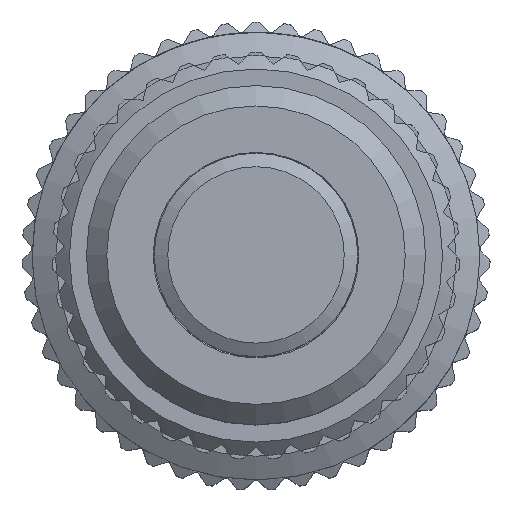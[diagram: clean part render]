
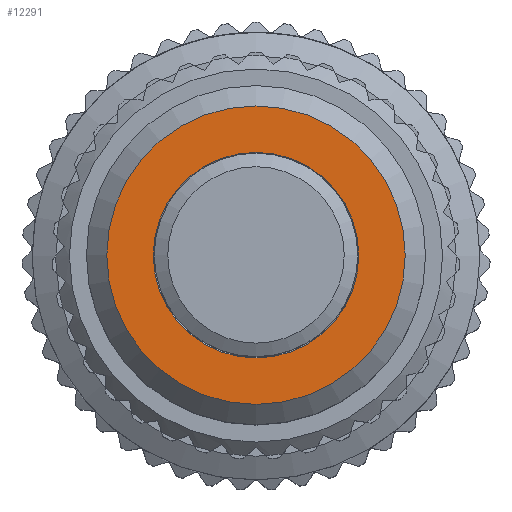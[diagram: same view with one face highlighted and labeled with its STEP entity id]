
A CAD part, top view. The second image highlights one B-rep face of the part: STEP entity #12291.
In plain terms, the highlighted planar face has unit normal (0, 0, 1).
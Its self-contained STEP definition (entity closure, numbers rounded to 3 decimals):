
#2775=PLANE($,#12990);
#3078=FACE_BOUND($,#3810,.T.);
#3121=FACE_OUTER_BOUND($,#3809,.T.);
#3809=EDGE_LOOP($,(#8290));
#3810=EDGE_LOOP($,(#8291));
#4534=CIRCLE($,#12985,3.03);
#4538=CIRCLE($,#12991,4.4);
#4955=VERTEX_POINT($,#16923);
#4959=VERTEX_POINT($,#16933);
#6292=EDGE_CURVE($,#4955,#4955,#4534,.T.);
#6296=EDGE_CURVE($,#4959,#4959,#4538,.T.);
#8290=ORIENTED_EDGE($,*,*,#6296,.F.);
#8291=ORIENTED_EDGE($,*,*,#6292,.F.);
#12291=ADVANCED_FACE($,(#3121,#3078),#2775,.F.);
#12985=AXIS2_PLACEMENT_3D($,#16924,#14030,#14031);
#12990=AXIS2_PLACEMENT_3D($,#16932,#14040,#14041);
#12991=AXIS2_PLACEMENT_3D($,#16934,#14042,#14043);
#14030=DIRECTION('center_axis',(0.,0.,
1.));
#14031=DIRECTION('ref_axis',(-1.,0.,0.));
#14040=DIRECTION('center_axis',(0.,0.,
-1.));
#14041=DIRECTION('ref_axis',(-1.,0.,0.));
#14042=DIRECTION('center_axis',(0.,0.,
-1.));
#14043=DIRECTION('ref_axis',(-1.,0.,0.));
#16923=CARTESIAN_POINT('',(3.03,0.,19.682));
#16924=CARTESIAN_POINT('Origin',(0.,0.,
19.682));
#16932=CARTESIAN_POINT('Origin',(0.,0.,
19.682));
#16933=CARTESIAN_POINT('',(4.4,0.,19.682));
#16934=CARTESIAN_POINT('Origin',(0.,0.,
19.682));
